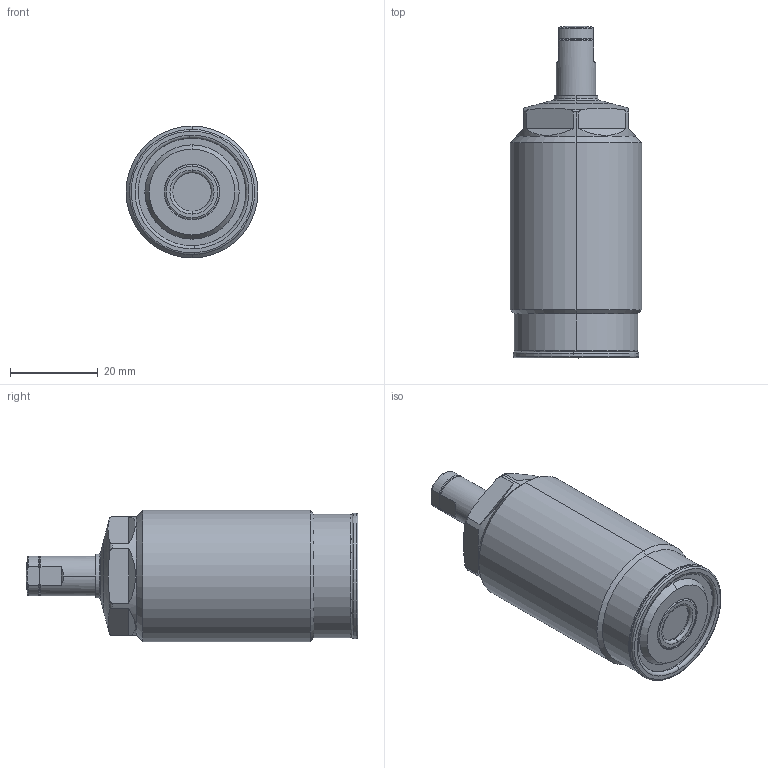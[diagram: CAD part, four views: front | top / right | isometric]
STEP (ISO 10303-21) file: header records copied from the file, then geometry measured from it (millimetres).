
FILE_DESCRIPTION(/* description */ (''),/* implementation_level */ '2;1');
FILE_NAME(/* name */ 'TNE30.stp',/* time_stamp */ '2022-11-17T13:44:38+08:00',/* author */ (''),/* organization */ (''),/* preprocessor_version */ 'ST-DEVELOPER v16.7',/* originating_system */ 'SIEMENS PLM Software NX 12.0',/* authorisation */ '');
FILE_SCHEMA (('AP203_CONFIGURATION_CONTROLLED_3D_DESIGN_OF_MECHANICAL_PARTS_AND_ASSEMBLIES_MIM_LF { 1 0 10303 403 2 1 2}'));
Length unit declared in the file: millimetre
Products named in the file (6): TNE30-05; TNE30-01; TNE30-03; TNE30-04; TNE30-02; WNC1003-x-E_step
Assembly tree (5 placements, depth 2):
  WNC1003-x-E_step
    TNE30-02
    TNE30-04
    TNE30-03
    TNE30-01
    TNE30-05
Bounding box: 30 x 75.5 x 30 mm (x, y, z)
Volume: 38669.5 mm3; surface area: 8236.6 mm2
Topology: 5 solids, 5 shells, 143 faces, 313 edges, 189 vertices
Faces by surface type: torus 49, cylinder 36, plane 36, cone 20, sphere 2
Entity records: 4973 total; most frequent: CARTESIAN_POINT 1083, DIRECTION 758, ORIENTED_EDGE 626, AXIS2_PLACEMENT_3D 336, EDGE_CURVE 313, VERTEX_POINT 189, CIRCLE 187, EDGE_LOOP 156
